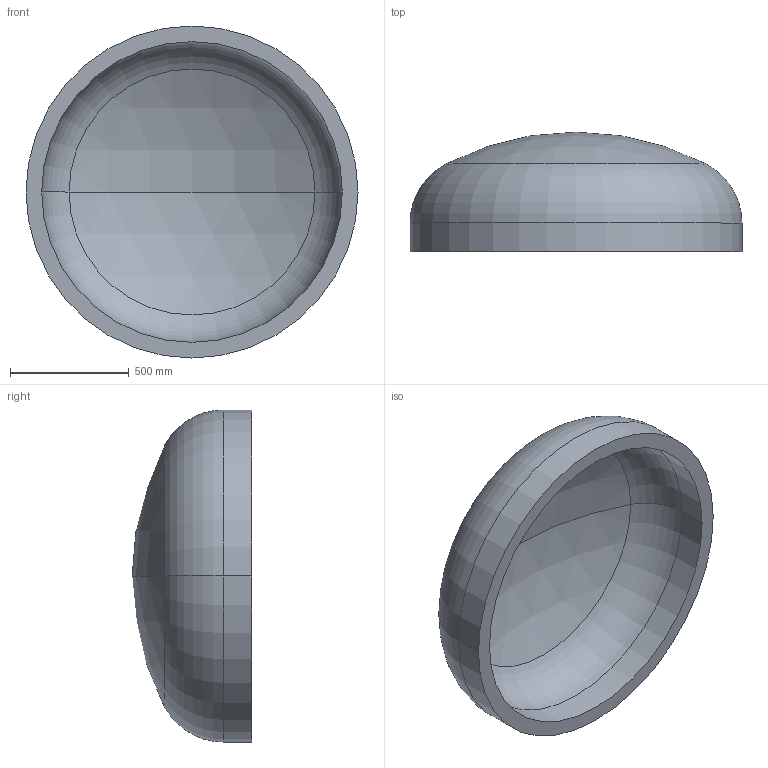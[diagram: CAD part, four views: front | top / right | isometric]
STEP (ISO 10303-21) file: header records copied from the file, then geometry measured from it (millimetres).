
FILE_DESCRIPTION (( 'STEP AP203' ), '1' );
FILE_NAME ('DIN 28013 Korbbogenform_-_Boden DIN 28013 - 1400 x 120 - I - s=66.step', '2016-07-01T10:23:30', ( '' ), ( '' ), 'SwSTEP 2.0', 'SolidWorks 2013', '' );
FILE_SCHEMA (( 'CONFIG_CONTROL_DESIGN' ));
Length unit declared in the file: millimetre
Products named in the file (1): DIN 28013 Korbbogenform_-_Boden DIN 28013 - 1400 x 120 - I - s=66
Bounding box: 1400 x 503.84 x 1400 mm (x, y, z)
Volume: 165539573.5 mm3; surface area: 5302071 mm2
Topology: 1 solids, 1 shells, 13 faces, 24 edges, 14 vertices
Faces by surface type: torus 4, cylinder 4, sphere 4, plane 1
Entity records: 407 total; most frequent: DIRECTION 72, CARTESIAN_POINT 52, ORIENTED_EDGE 48, AXIS2_PLACEMENT_3D 34, EDGE_CURVE 24, CIRCLE 20, VERTEX_POINT 14, EDGE_LOOP 14
